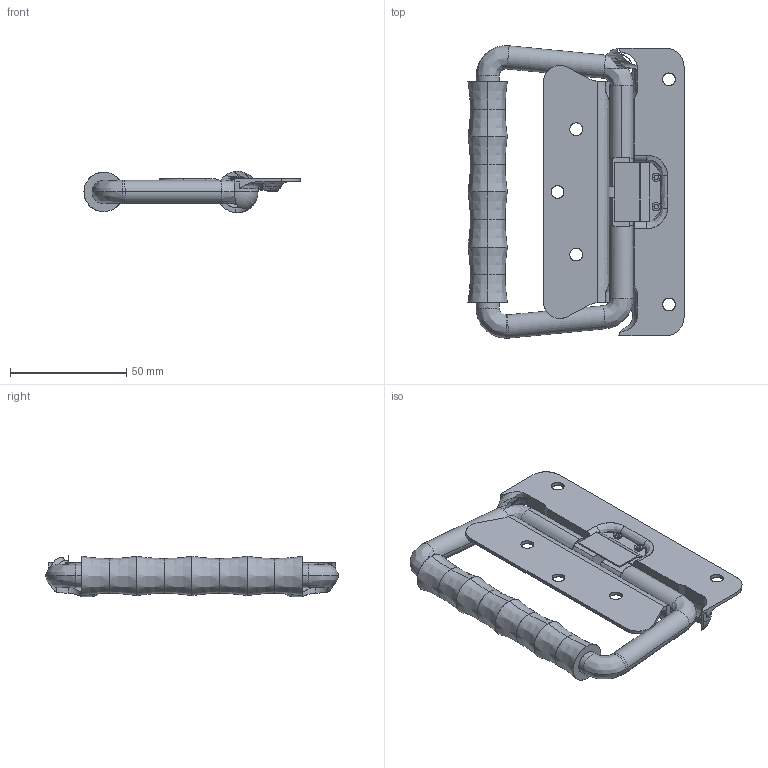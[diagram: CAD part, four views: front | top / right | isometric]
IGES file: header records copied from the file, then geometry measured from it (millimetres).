
Start section: SolidWorks IGES FILE using analytic representation for surfaces
Global section: file name: C:\Documents and Settings\lecoutey\Bureau\PR 302\PR 302.IGS; native system: SolidWorks 2004 by SolidWorks Corporation; preprocessor: Version 5.3; author: lecoutey; date: 050408.142152; units: millimetre
Bounding box: 93.1 x 125.97 x 17.78 mm (x, y, z)
Surface area: 30974.6 mm2 (no closed solid volume)
Topology: 0 solids, 0 shells, 260 faces, 3103 edges, 3095 vertices
Faces by surface type: bspline 143, revolution 117
